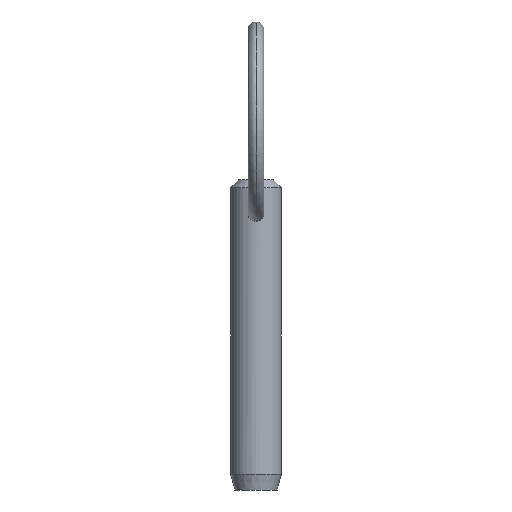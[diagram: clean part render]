
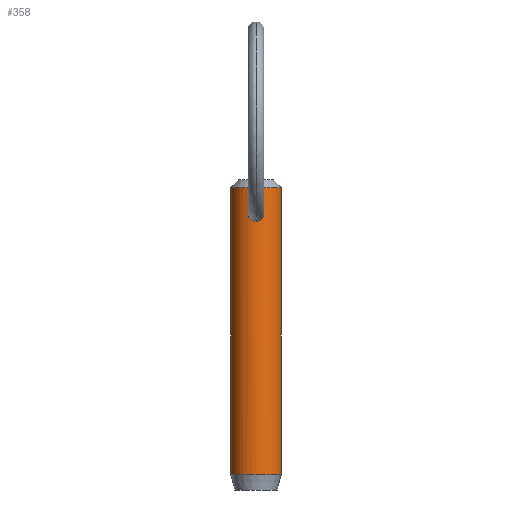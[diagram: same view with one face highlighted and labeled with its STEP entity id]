
A CAD part, front view. The second image highlights one B-rep face of the part: STEP entity #358.
In plain terms, the highlighted cylindrical face has radius 3.175 mm (diameter 6.35 mm), a partial arc.
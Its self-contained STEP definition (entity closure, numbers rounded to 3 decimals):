
#15 = LINE ( 'NONE', #203, #390 ) ;
#16 = VERTEX_POINT ( 'NONE', #365 ) ;
#32 = CARTESIAN_POINT ( 'NONE',  ( -0.629, -3.114, 26.005 ) ) ;
#37 = CARTESIAN_POINT ( 'NONE',  ( 0.617, -3.116, 27.651 ) ) ;
#54 = EDGE_CURVE ( 'NONE', #57, #16, #90, .T. ) ;
#57 = VERTEX_POINT ( 'NONE', #136 ) ;
#59 = CARTESIAN_POINT ( 'NONE',  ( 0., -3.175, 25.803 ) ) ;
#60 = CARTESIAN_POINT ( 'NONE',  ( -0.067, -3.175, 27.882 ) ) ;
#61 = EDGE_LOOP ( 'NONE', ( #71, #115, #91, #444 ) ) ;
#64 = CARTESIAN_POINT ( 'NONE',  ( -0.508, -3.136, 27.735 ) ) ;
#66 = CARTESIAN_POINT ( 'NONE',  ( -0.991, -3.016, 27.096 ) ) ;
#71 = ORIENTED_EDGE ( 'NONE', *, *, #208, .F. ) ;
#72 = CARTESIAN_POINT ( 'NONE',  ( 0.628, -3.114, 26.004 ) ) ;
#75 = CIRCLE ( 'NONE', #257, 3.175 ) ;
#90 = LINE ( 'NONE', #283, #442 ) ;
#91 = ORIENTED_EDGE ( 'NONE', *, *, #54, .T. ) ;
#109 = CARTESIAN_POINT ( 'NONE',  ( 0.515, -3.135, 25.93 ) ) ;
#115 = ORIENTED_EDGE ( 'NONE', *, *, #320, .T. ) ;
#136 = CARTESIAN_POINT ( 'NONE',  ( -3.175, 0., 29.98 ) ) ;
#138 = CARTESIAN_POINT ( 'NONE',  ( 0., -3.175, 27.882 ) ) ;
#142 = CARTESIAN_POINT ( 'NONE',  ( 0.992, -3.016, 27.094 ) ) ;
#145 = CARTESIAN_POINT ( 'NONE',  ( 0.134, -3.175, 25.803 ) ) ;
#147 = CARTESIAN_POINT ( 'NONE',  ( 0.884, -3.055, 27.357 ) ) ;
#149 = EDGE_LOOP ( 'NONE', ( #188, #255 ) ) ;
#150 = CARTESIAN_POINT ( 'NONE',  ( 0.268, -3.166, 25.829 ) ) ;
#164 = EDGE_CURVE ( 'NONE', #267, #451, #244, .T. ) ;
#167 = CARTESIAN_POINT ( 'NONE',  ( 0., 0., 29.98 ) ) ;
#169 = CARTESIAN_POINT ( 'NONE',  ( 0., 0., 25.4 ) ) ;
#176 = DIRECTION ( 'NONE',  ( 0., 0., -1. ) ) ;
#188 = ORIENTED_EDGE ( 'NONE', *, *, #419, .T. ) ;
#190 = CARTESIAN_POINT ( 'NONE',  ( 1.004, -3.012, 26.693 ) ) ;
#191 = CARTESIAN_POINT ( 'NONE',  ( -0.815, -3.07, 26.195 ) ) ;
#195 = CARTESIAN_POINT ( 'NONE',  ( -0.134, -3.175, 25.803 ) ) ;
#203 = CARTESIAN_POINT ( 'NONE',  ( 3.175, 0., 25.4 ) ) ;
#205 = DIRECTION ( 'NONE',  ( -1., 0., 0. ) ) ;
#208 = EDGE_CURVE ( 'NONE', #345, #458, #15, .T. ) ;
#228 = CARTESIAN_POINT ( 'NONE',  ( -0.269, -3.166, 25.829 ) ) ;
#244 = B_SPLINE_CURVE_WITH_KNOTS ( 'NONE', 3,
 ( #59, #195, #228, #369, #32, #191, #286, #436, #289, #66, #434, #404, #64, #477, #483, #330, #60, #138 ),
 .UNSPECIFIED., .F., .F.,
 ( 4, 2, 2, 2, 2, 2, 2, 2, 4 ),
 ( 0.006, 0.006, 0.007, 0.007, 0.008, 0.008, 0.009, 0.009, 0.009 ),
 .UNSPECIFIED. ) ;
#247 = DIRECTION ( 'NONE',  ( 0., 0., -1. ) ) ;
#255 = ORIENTED_EDGE ( 'NONE', *, *, #164, .T. ) ;
#257 = AXIS2_PLACEMENT_3D ( 'NONE', #437, #377, #479 ) ;
#258 = CARTESIAN_POINT ( 'NONE',  ( 0.815, -3.07, 26.195 ) ) ;
#262 = CARTESIAN_POINT ( 'NONE',  ( 0., -3.175, 27.882 ) ) ;
#266 = DIRECTION ( 'NONE',  ( 0., 0., -1. ) ) ;
#267 = VERTEX_POINT ( 'NONE', #300 ) ;
#274 = FACE_BOUND ( 'NONE', #149, .T. ) ;
#283 = CARTESIAN_POINT ( 'NONE',  ( -3.175, 0., 25.4 ) ) ;
#286 = CARTESIAN_POINT ( 'NONE',  ( -0.888, -3.049, 26.309 ) ) ;
#289 = CARTESIAN_POINT ( 'NONE',  ( -1.004, -3.012, 26.695 ) ) ;
#296 = CARTESIAN_POINT ( 'NONE',  ( 0.888, -3.049, 26.309 ) ) ;
#300 = CARTESIAN_POINT ( 'NONE',  ( 0., -3.175, 25.803 ) ) ;
#305 = FACE_OUTER_BOUND ( 'NONE', #61, .T. ) ;
#307 = DIRECTION ( 'NONE',  ( 0., 0., -1. ) ) ;
#320 = EDGE_CURVE ( 'NONE', #345, #57, #459, .T. ) ;
#325 = CARTESIAN_POINT ( 'NONE',  ( 0.134, -3.175, 27.882 ) ) ;
#329 = CARTESIAN_POINT ( 'NONE',  ( 0.51, -3.136, 27.734 ) ) ;
#330 = CARTESIAN_POINT ( 'NONE',  ( -0.133, -3.173, 27.874 ) ) ;
#341 = AXIS2_PLACEMENT_3D ( 'NONE', #167, #307, #388 ) ;
#345 = VERTEX_POINT ( 'NONE', #348 ) ;
#348 = CARTESIAN_POINT ( 'NONE',  ( 3.175, 0., 29.98 ) ) ;
#349 = B_SPLINE_CURVE_WITH_KNOTS ( 'NONE', 3,
 ( #262, #325, #379, #329, #37, #147, #142, #190, #403, #296, #258, #72, #109, #150, #145, #412 ),
 .UNSPECIFIED., .F., .F.,
 ( 4, 2, 2, 2, 2, 2, 2, 4 ),
 ( 0.003, 0.003, 0.004, 0.004, 0.005, 0.005, 0.006, 0.006 ),
 .UNSPECIFIED. ) ;
#358 = ADVANCED_FACE ( 'NONE', ( #305, #274 ), #463, .T. ) ;
#365 = CARTESIAN_POINT ( 'NONE',  ( -3.175, 0., -5.92 ) ) ;
#369 = CARTESIAN_POINT ( 'NONE',  ( -0.516, -3.135, 25.931 ) ) ;
#371 = CARTESIAN_POINT ( 'NONE',  ( 0., -3.175, 27.882 ) ) ;
#377 = DIRECTION ( 'NONE',  ( 0., 0., 1. ) ) ;
#379 = CARTESIAN_POINT ( 'NONE',  ( 0.269, -3.166, 27.85 ) ) ;
#388 = DIRECTION ( 'NONE',  ( 1., 0., 0. ) ) ;
#390 = VECTOR ( 'NONE', #266, 1000. ) ;
#392 = AXIS2_PLACEMENT_3D ( 'NONE', #169, #247, #205 ) ;
#403 = CARTESIAN_POINT ( 'NONE',  ( 0.982, -3.02, 26.558 ) ) ;
#404 = CARTESIAN_POINT ( 'NONE',  ( -0.615, -3.116, 27.653 ) ) ;
#409 = CARTESIAN_POINT ( 'NONE',  ( 3.175, 0., -5.92 ) ) ;
#412 = CARTESIAN_POINT ( 'NONE',  ( 0., -3.175, 25.803 ) ) ;
#419 = EDGE_CURVE ( 'NONE', #451, #267, #349, .T. ) ;
#434 = CARTESIAN_POINT ( 'NONE',  ( -0.882, -3.055, 27.36 ) ) ;
#436 = CARTESIAN_POINT ( 'NONE',  ( -0.983, -3.02, 26.559 ) ) ;
#437 = CARTESIAN_POINT ( 'NONE',  ( 0., 0., -5.92 ) ) ;
#442 = VECTOR ( 'NONE', #176, 1000. ) ;
#444 = ORIENTED_EDGE ( 'NONE', *, *, #465, .T. ) ;
#451 = VERTEX_POINT ( 'NONE', #371 ) ;
#458 = VERTEX_POINT ( 'NONE', #409 ) ;
#459 = CIRCLE ( 'NONE', #341, 3.175 ) ;
#463 = CYLINDRICAL_SURFACE ( 'NONE', #392, 3.175 ) ;
#465 = EDGE_CURVE ( 'NONE', #16, #458, #75, .T. ) ;
#477 = CARTESIAN_POINT ( 'NONE',  ( -0.328, -3.159, 27.821 ) ) ;
#479 = DIRECTION ( 'NONE',  ( -1., 0., 0. ) ) ;
#483 = CARTESIAN_POINT ( 'NONE',  ( -0.264, -3.165, 27.844 ) ) ;
